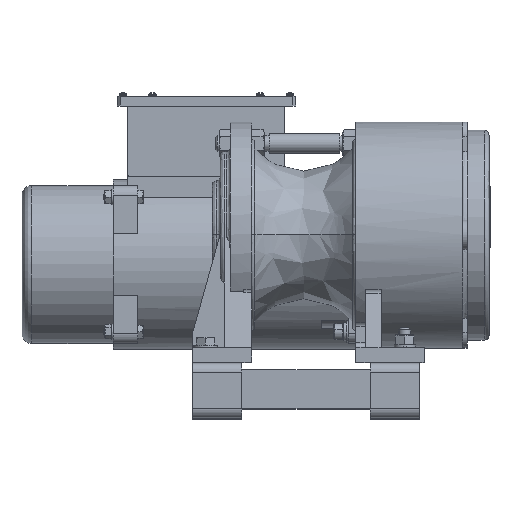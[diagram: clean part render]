
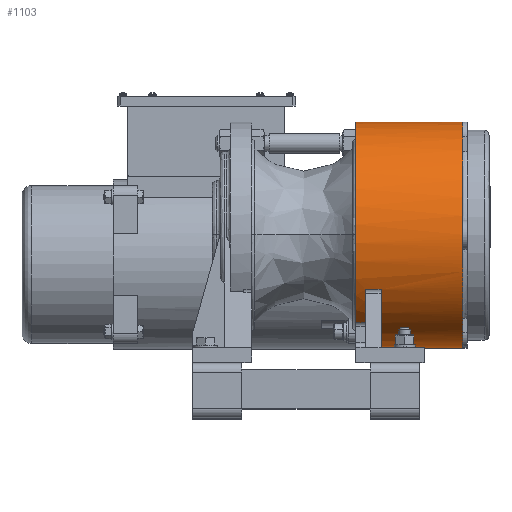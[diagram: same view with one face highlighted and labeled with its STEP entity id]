
A CAD part, top view. The second image highlights one B-rep face of the part: STEP entity #1103.
In plain terms, the highlighted cylindrical face has radius 115 mm (diameter 230 mm), a partial arc.
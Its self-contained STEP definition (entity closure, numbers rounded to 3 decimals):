
#1103=ADVANCED_FACE('',(#12612),#12611,.T.);
#12611=CYLINDRICAL_SURFACE('',#56363,115.);
#12612=FACE_OUTER_BOUND('',#56364,.T.);
#56360=CARTESIAN_POINT('',(1.323,130.,78.029));
#56361=DIRECTION('',(-1.,0.,0.));
#56362=DIRECTION('',(0.,-1.,0.));
#56363=AXIS2_PLACEMENT_3D('',#56360,#56361,#56362);
#56364=EDGE_LOOP('',(#79842,#79843,#79844,#79845,#79846,#79847,#79848,#79849,#79850,#79851,#79852,#79853,#79854,#79855));
#79842=ORIENTED_EDGE('',*,*,#90578,.T.);
#79843=ORIENTED_EDGE('',*,*,#90567,.F.);
#79844=ORIENTED_EDGE('',*,*,#90579,.F.);
#79845=ORIENTED_EDGE('',*,*,#90580,.F.);
#79846=ORIENTED_EDGE('',*,*,#90574,.F.);
#79847=ORIENTED_EDGE('',*,*,#90581,.F.);
#79848=ORIENTED_EDGE('',*,*,#88700,.F.);
#79849=ORIENTED_EDGE('',*,*,#88659,.F.);
#79850=ORIENTED_EDGE('',*,*,#89258,.T.);
#79851=ORIENTED_EDGE('',*,*,#88774,.F.);
#79852=ORIENTED_EDGE('',*,*,#88765,.T.);
#79853=ORIENTED_EDGE('',*,*,#88771,.T.);
#79854=ORIENTED_EDGE('',*,*,#88648,.T.);
#79855=ORIENTED_EDGE('',*,*,#90289,.F.);
#88648=EDGE_CURVE('',#106335,#106336,#106337,.T.);
#88659=EDGE_CURVE('',#106406,#106413,#106414,.T.);
#88700=EDGE_CURVE('',#106413,#106687,#106688,.T.);
#88765=EDGE_CURVE('',#107127,#107120,#107128,.T.);
#88771=EDGE_CURVE('',#107120,#106335,#107165,.T.);
#88774=EDGE_CURVE('',#107127,#107172,#107185,.T.);
#89258=EDGE_CURVE('',#106406,#107172,#110435,.T.);
#90289=EDGE_CURVE('',#106740,#106336,#117338,.T.);
#90567=EDGE_CURVE('',#96087,#119208,#119209,.T.);
#90574=EDGE_CURVE('',#119247,#95920,#119254,.T.);
#90578=EDGE_CURVE('',#106740,#119208,#119278,.T.);
#90579=EDGE_CURVE('',#96302,#96087,#119284,.T.);
#90580=EDGE_CURVE('',#95920,#96302,#119290,.T.);
#90581=EDGE_CURVE('',#106687,#119247,#119296,.T.);
#95920=VERTEX_POINT('',#139903);
#96087=VERTEX_POINT('',#140003);
#96302=VERTEX_POINT('',#140132);
#106335=VERTEX_POINT('',#156937);
#106336=VERTEX_POINT('',#156938);
#106337=CIRCLE('',#156942,115.);
#106406=VERTEX_POINT('',#156983);
#106413=VERTEX_POINT('',#156988);
#106414=LINE('',#156989,#156990);
#106687=VERTEX_POINT('',#157152);
#106688=CIRCLE('',#157156,115.);
#106740=VERTEX_POINT('',#157184);
#107120=VERTEX_POINT('',#157411);
#107127=VERTEX_POINT('',#157416);
#107128=CIRCLE('',#157420,115.);
#107165=LINE('',#157438,#157439);
#107172=VERTEX_POINT('',#157442);
#107185=LINE('',#157450,#157451);
#110435=CIRCLE('',#161345,115.);
#117338=LINE('',#171876,#171877);
#119208=VERTEX_POINT('',#173162);
#119209=CIRCLE('',#173166,115.);
#119247=VERTEX_POINT('',#173188);
#119254=CIRCLE('',#173195,115.);
#119278=LINE('',#173205,#173206);
#119284=CIRCLE('',#173211,115.);
#119290=CIRCLE('',#173215,115.);
#119296=LINE('',#173216,#173217);
#139903=CARTESIAN_POINT('',(19.323,244.856,83.779));
#140003=CARTESIAN_POINT('',(19.323,15.144,83.779));
#140132=CARTESIAN_POINT('',(19.323,130.,193.029));
#156937=CARTESIAN_POINT('',(-65.677,40.228,149.904));
#156938=CARTESIAN_POINT('',(-65.677,15.,78.029));
#156939=CARTESIAN_POINT('',(-65.677,130.,78.029));
#156940=DIRECTION('',(1.,0.,0.));
#156941=DIRECTION('',(0.,1.,0.));
#156942=AXIS2_PLACEMENT_3D('',#156939,#156940,#156941);
#156983=CARTESIAN_POINT('',(-79.677,40.228,149.904));
#156988=CARTESIAN_POINT('',(-89.677,40.228,149.904));
#156989=CARTESIAN_POINT('',(-79.677,40.228,149.904));
#156990=VECTOR('',#156991,10.);
#156991=DIRECTION('',(-1.,0.,0.));
#157152=CARTESIAN_POINT('',(-89.677,245.,78.029));
#157153=CARTESIAN_POINT('',(-89.677,130.,78.029));
#157154=DIRECTION('',(-1.,0.,0.));
#157155=DIRECTION('',(0.,1.,0.));
#157156=AXIS2_PLACEMENT_3D('',#157153,#157154,#157155);
#157184=CARTESIAN_POINT('',(-19.677,15.,78.029));
#157411=CARTESIAN_POINT('',(-63.677,40.228,149.904));
#157416=CARTESIAN_POINT('',(-63.677,74.243,178.608));
#157417=CARTESIAN_POINT('',(-63.677,130.,78.029));
#157418=DIRECTION('',(1.,0.,0.));
#157419=DIRECTION('',(0.,-1.,0.));
#157420=AXIS2_PLACEMENT_3D('',#157417,#157418,#157419);
#157438=CARTESIAN_POINT('',(-63.677,40.228,149.904));
#157439=VECTOR('',#157440,2.);
#157440=DIRECTION('',(-1.,0.,0.));
#157442=CARTESIAN_POINT('',(-79.677,74.243,178.608));
#157450=CARTESIAN_POINT('',(-63.677,74.243,178.608));
#157451=VECTOR('',#157452,16.);
#157452=DIRECTION('',(-1.,0.,0.));
#161342=CARTESIAN_POINT('',(-79.677,130.,78.029));
#161343=DIRECTION('',(-1.,0.,0.));
#161344=DIRECTION('',(0.,1.,0.));
#161345=AXIS2_PLACEMENT_3D('',#161342,#161343,#161344);
#171876=CARTESIAN_POINT('',(-19.677,15.,78.029));
#171877=VECTOR('',#171878,46.);
#171878=DIRECTION('',(-1.,0.,0.));
#173162=CARTESIAN_POINT('',(19.323,15.,78.029));
#173163=CARTESIAN_POINT('',(19.323,130.,78.029));
#173164=DIRECTION('',(1.,0.,0.));
#173165=DIRECTION('',(0.,-1.,0.));
#173166=AXIS2_PLACEMENT_3D('',#173163,#173164,#173165);
#173188=CARTESIAN_POINT('',(19.323,245.,78.029));
#173192=CARTESIAN_POINT('',(19.323,130.,78.029));
#173193=DIRECTION('',(1.,0.,0.));
#173194=DIRECTION('',(0.,-1.,0.));
#173195=AXIS2_PLACEMENT_3D('',#173192,#173193,#173194);
#173205=CARTESIAN_POINT('',(-19.677,15.,78.029));
#173206=VECTOR('',#173207,39.);
#173207=DIRECTION('',(1.,0.,0.));
#173208=CARTESIAN_POINT('',(19.323,130.,78.029));
#173209=DIRECTION('',(1.,0.,0.));
#173210=DIRECTION('',(0.,-1.,0.));
#173211=AXIS2_PLACEMENT_3D('',#173208,#173209,#173210);
#173212=CARTESIAN_POINT('',(19.323,130.,78.029));
#173213=DIRECTION('',(1.,0.,0.));
#173214=DIRECTION('',(0.,-1.,0.));
#173215=AXIS2_PLACEMENT_3D('',#173212,#173213,#173214);
#173216=CARTESIAN_POINT('',(-89.677,245.,78.029));
#173217=VECTOR('',#173218,109.);
#173218=DIRECTION('',(1.,0.,0.));
